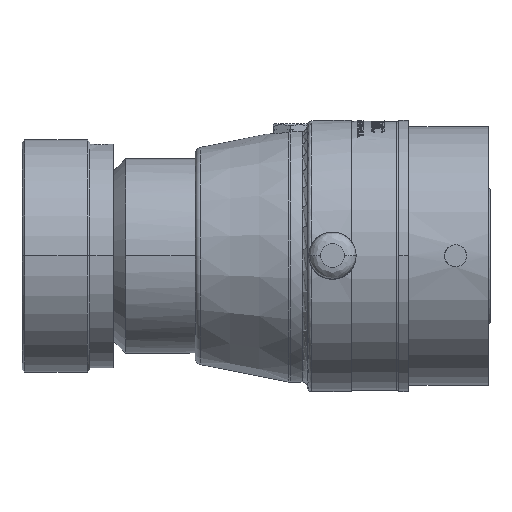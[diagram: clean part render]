
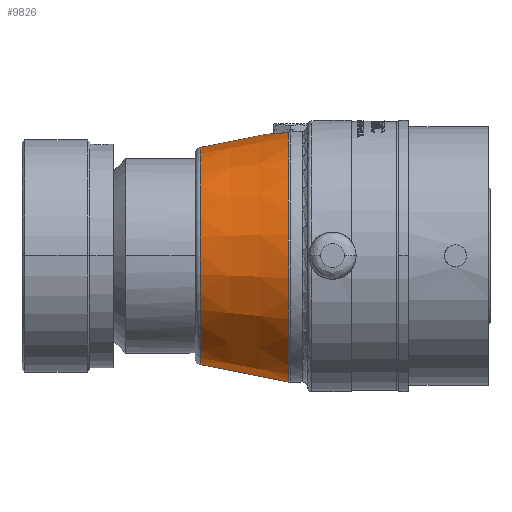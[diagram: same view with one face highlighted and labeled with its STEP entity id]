
A CAD part, top view. The second image highlights one B-rep face of the part: STEP entity #9826.
In plain terms, the highlighted conical face has half-angle 11.227 degrees and reference radius 63.248 mm.
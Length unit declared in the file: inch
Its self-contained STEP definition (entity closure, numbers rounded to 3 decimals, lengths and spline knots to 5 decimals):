
#8986=CARTESIAN_POINT('',(4.22865,0.,0.));
#8987=DIRECTION('',(1.,0.,0.));
#8988=DIRECTION('',(0.,0.983,0.186));
#8989=AXIS2_PLACEMENT_3D('',#8986,#8987,#8988);
#8991=DIRECTION('',(0.981,-0.195,0.));
#8992=VECTOR('',#8991,1.91182);
#8993=CARTESIAN_POINT('',(2.35341,-2.30398,
0.));
#8994=LINE('',#8993,#8992);
#8995=CARTESIAN_POINT('',(2.35341,0.,0.));
#8996=DIRECTION('',(-1.,0.,0.));
#8997=DIRECTION('',(0.,-1.,0.));
#8998=AXIS2_PLACEMENT_3D('',#8995,#8996,#8997);
#9000=DIRECTION('',(0.981,0.195,0.));
#9001=VECTOR('',#9000,1.45213);
#9002=CARTESIAN_POINT('',(2.35341,2.30398,
0.));
#9003=LINE('',#9002,#9001);
#9004=CARTESIAN_POINT('',(4.22865,2.62955,0.49758));
#9005=CARTESIAN_POINT('',(4.19862,2.62405,0.49462));
#9006=CARTESIAN_POINT('',(4.13894,2.61415,0.48323));
#9007=CARTESIAN_POINT('',(4.05341,2.60291,0.44999));
#9008=CARTESIAN_POINT('',(3.97502,2.59518,0.40147));
#9009=CARTESIAN_POINT('',(3.9068,2.59047,0.33945));
#9010=CARTESIAN_POINT('',(3.85097,2.58801,0.26589));
#9011=CARTESIAN_POINT('',(3.80946,2.58701,0.18321));
#9012=CARTESIAN_POINT('',(3.78367,2.58673,0.09377));
#9013=CARTESIAN_POINT('',(3.77775,2.58671,0.03135));
#9014=CARTESIAN_POINT('',(3.77775,2.58671,0.));
#9345=CARTESIAN_POINT('',(4.22865,2.62955,0.49758));
#9696=CARTESIAN_POINT('',(3.77775,2.58671,0.));
#9697=VERTEX_POINT('',#9696);
#9726=CARTESIAN_POINT('',(2.35341,2.30398,0.));
#9727=CARTESIAN_POINT('',(2.35341,-2.30398,0.));
#9728=VERTEX_POINT('',#9726);
#9729=VERTEX_POINT('',#9727);
#9748=CARTESIAN_POINT('',(4.22865,-2.67622,0.));
#9749=VERTEX_POINT('',#9748);
#9750=VERTEX_POINT('',#9345);
#9810=CARTESIAN_POINT('',(3.29103,0.,0.));
#9811=DIRECTION('',(1.,0.,0.));
#9812=DIRECTION('',(0.,1.,0.));
#9813=AXIS2_PLACEMENT_3D('',#9810,#9811,#9812);
#9814=CONICAL_SURFACE('',#9813,2.4901,11.227);
#9816=ORIENTED_EDGE('',*,*,#9815,.T.);
#9818=ORIENTED_EDGE('',*,*,#9817,.F.);
#9819=ORIENTED_EDGE('',*,*,#9804,.T.);
#9821=ORIENTED_EDGE('',*,*,#9820,.T.);
#9823=ORIENTED_EDGE('',*,*,#9822,.F.);
#9824=EDGE_LOOP('',(#9816,#9818,#9819,#9821,#9823));
#9825=FACE_OUTER_BOUND('',#9824,.F.);
#9826=ADVANCED_FACE('',(#9825),#9814,.T.);
#8990=CIRCLE('',#8989,2.67622);
#8999=CIRCLE('',#8998,2.30398);
#9015=B_SPLINE_CURVE_WITH_KNOTS('',3,(#9004,#9005,#9006,#9007,#9008,#9009,#9010,
#9011,#9012,#9013,#9014),.UNSPECIFIED.,.F.,.F.,(4,1,1,1,1,1,1,1,4),(0.,
0.125,0.25,0.375,0.5,0.625,0.75,0.875,1.),.UNSPECIFIED.);
#9804=EDGE_CURVE('',#9729,#9728,#8999,.T.);
#9815=EDGE_CURVE('',#9750,#9749,#8990,.T.);
#9817=EDGE_CURVE('',#9729,#9749,#8994,.T.);
#9820=EDGE_CURVE('',#9728,#9697,#9003,.T.);
#9822=EDGE_CURVE('',#9750,#9697,#9015,.T.);
